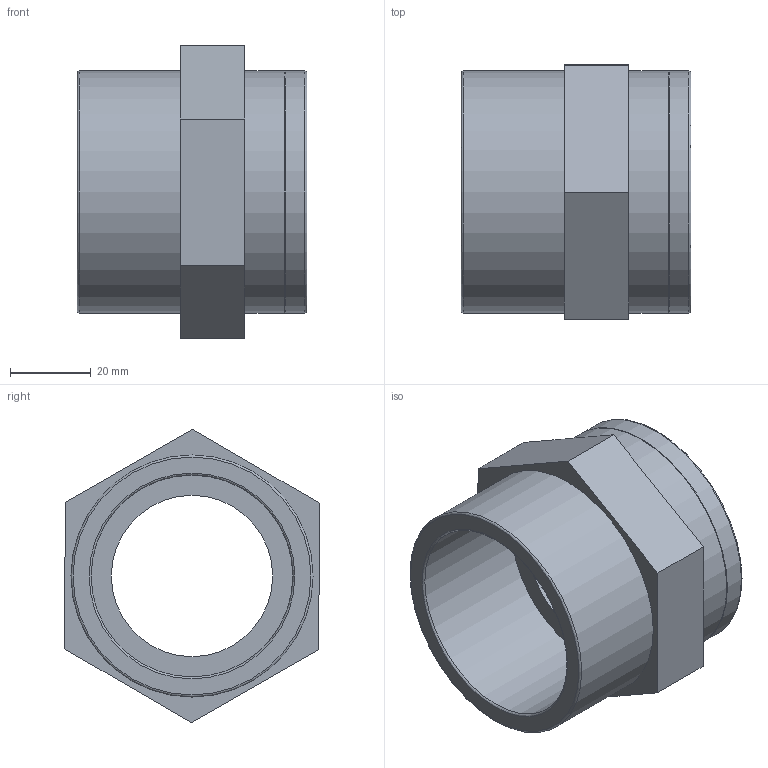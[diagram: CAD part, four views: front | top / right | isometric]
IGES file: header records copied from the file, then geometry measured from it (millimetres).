
Global section: file name: 057102050015.ipt; native system: Autodesk Inventor 2015; preprocessor: unknown; author: KIM; date: 20171207.165810; units: millimetre
Bounding box: 57 x 63.1 x 72.75 mm (x, y, z)
Volume: 70239 mm3; surface area: 23923.6 mm2
Topology: 1 solids, 1 shells, 24 faces, 61 edges, 43 vertices
Faces by surface type: plane 12, revolution 7, cylinder 3, cone 2
Full cylindrical faces by diameter (mm): 60 x3
